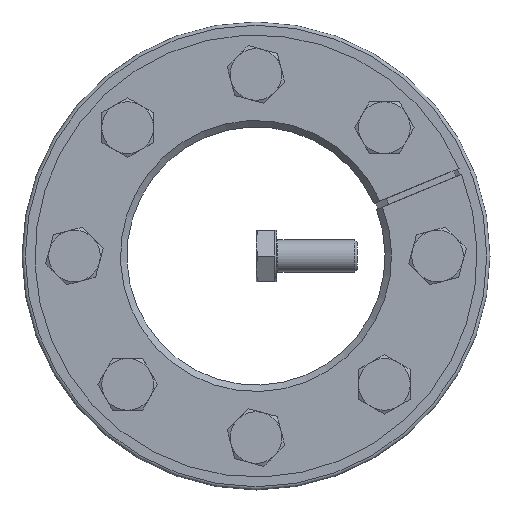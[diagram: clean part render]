
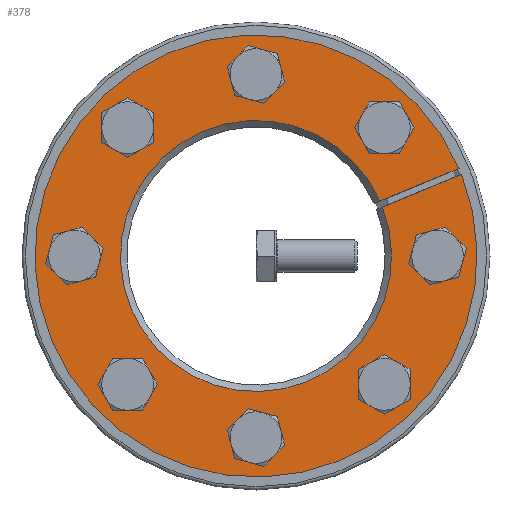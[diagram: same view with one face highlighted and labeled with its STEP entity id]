
A CAD part, front view. The second image highlights one B-rep face of the part: STEP entity #378.
In plain terms, the highlighted planar face has unit normal (0, -1, 0).
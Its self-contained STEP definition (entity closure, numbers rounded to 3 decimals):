
#378 = ADVANCED_FACE( '', ( #622, #623, #624, #625, #626, #627, #628, #629, #630 ), #631, .F. );
#622 = FACE_BOUND( '', #768, .T. );
#623 = FACE_BOUND( '', #769, .T. );
#624 = FACE_BOUND( '', #770, .T. );
#625 = FACE_BOUND( '', #771, .T. );
#626 = FACE_OUTER_BOUND( '', #772, .T. );
#627 = FACE_BOUND( '', #773, .T. );
#628 = FACE_BOUND( '', #774, .T. );
#629 = FACE_BOUND( '', #775, .T. );
#630 = FACE_BOUND( '', #776, .T. );
#631 = PLANE( '', #777 );
#768 = EDGE_LOOP( '', ( #1021 ) );
#769 = EDGE_LOOP( '', ( #1022 ) );
#770 = EDGE_LOOP( '', ( #1023 ) );
#771 = EDGE_LOOP( '', ( #1024 ) );
#772 = EDGE_LOOP( '', ( #1025, #1026, #1027, #1028 ) );
#773 = EDGE_LOOP( '', ( #1029 ) );
#774 = EDGE_LOOP( '', ( #1030 ) );
#775 = EDGE_LOOP( '', ( #1031 ) );
#776 = EDGE_LOOP( '', ( #1032 ) );
#777 = AXIS2_PLACEMENT_3D( '', #1033, #1034, #1035 );
#1021 = ORIENTED_EDGE( '', *, *, #1300, .T. );
#1022 = ORIENTED_EDGE( '', *, *, #1301, .T. );
#1023 = ORIENTED_EDGE( '', *, *, #1302, .T. );
#1024 = ORIENTED_EDGE( '', *, *, #1299, .T. );
#1025 = ORIENTED_EDGE( '', *, *, #1282, .T. );
#1026 = ORIENTED_EDGE( '', *, *, #1285, .T. );
#1027 = ORIENTED_EDGE( '', *, *, #1293, .T. );
#1028 = ORIENTED_EDGE( '', *, *, #1277, .F. );
#1029 = ORIENTED_EDGE( '', *, *, #1303, .T. );
#1030 = ORIENTED_EDGE( '', *, *, #1304, .T. );
#1031 = ORIENTED_EDGE( '', *, *, #1305, .T. );
#1032 = ORIENTED_EDGE( '', *, *, #1306, .T. );
#1033 = CARTESIAN_POINT( '', ( 0., 0., 72.5 ) );
#1034 = DIRECTION( '', ( 0., 1., 0. ) );
#1035 = DIRECTION( '', ( 0., 0., 1. ) );
#1277 = EDGE_CURVE( '', #1418, #1420, #1421, .T. );
#1282 = EDGE_CURVE( '', #1418, #1426, #1429, .T. );
#1285 = EDGE_CURVE( '', #1426, #1432, #1434, .T. );
#1293 = EDGE_CURVE( '', #1432, #1420, #1446, .T. );
#1299 = EDGE_CURVE( '', #1453, #1453, #1454, .T. );
#1300 = EDGE_CURVE( '', #1455, #1455, #1456, .T. );
#1301 = EDGE_CURVE( '', #1457, #1457, #1458, .T. );
#1302 = EDGE_CURVE( '', #1459, #1459, #1460, .T. );
#1303 = EDGE_CURVE( '', #1461, #1461, #1462, .T. );
#1304 = EDGE_CURVE( '', #1463, #1463, #1464, .T. );
#1305 = EDGE_CURVE( '', #1465, #1465, #1466, .T. );
#1306 = EDGE_CURVE( '', #1467, #1467, #1468, .T. );
#1418 = VERTEX_POINT( '', #1523 );
#1420 = VERTEX_POINT( '', #1528 );
#1421 = LINE( '', #1529, #1530 );
#1426 = VERTEX_POINT( '', #1540 );
#1429 = CIRCLE( '', #1546, 68.5 );
#1432 = VERTEX_POINT( '', #1549 );
#1434 = LINE( '', #1554, #1555 );
#1446 = CIRCLE( '', #1575, 42. );
#1453 = VERTEX_POINT( '', #1584 );
#1454 = CIRCLE( '', #1585, 5. );
#1455 = VERTEX_POINT( '', #1586 );
#1456 = CIRCLE( '', #1587, 5. );
#1457 = VERTEX_POINT( '', #1588 );
#1458 = CIRCLE( '', #1589, 5. );
#1459 = VERTEX_POINT( '', #1590 );
#1460 = CIRCLE( '', #1591, 5. );
#1461 = VERTEX_POINT( '', #1592 );
#1462 = CIRCLE( '', #1593, 5. );
#1463 = VERTEX_POINT( '', #1594 );
#1464 = CIRCLE( '', #1595, 5. );
#1465 = VERTEX_POINT( '', #1596 );
#1466 = CIRCLE( '', #1597, 5. );
#1467 = VERTEX_POINT( '', #1598 );
#1468 = CIRCLE( '', #1599, 5. );
#1523 = CARTESIAN_POINT( '', ( 62.896, 0., 27.135 ) );
#1528 = CARTESIAN_POINT( '', ( 38.409, 0., 16.992 ) );
#1529 = CARTESIAN_POINT( '', ( 62.903, 0., 27.138 ) );
#1530 = VECTOR( '', #1642, 1000. );
#1540 = CARTESIAN_POINT( '', ( 63.662, 0., 25.287 ) );
#1546 = AXIS2_PLACEMENT_3D( '', #1645, #1646, #1647 );
#1549 = CARTESIAN_POINT( '', ( 39.175, 0., 15.144 ) );
#1554 = CARTESIAN_POINT( '', ( 63.668, 0., 25.29 ) );
#1555 = VECTOR( '', #1651, 1000. );
#1575 = AXIS2_PLACEMENT_3D( '', #1660, #1661, #1662 );
#1584 = CARTESIAN_POINT( '', ( 56.25, 0., -5. ) );
#1585 = AXIS2_PLACEMENT_3D( '', #1674, #1675, #1676 );
#1586 = CARTESIAN_POINT( '', ( -5., 0., -56.25 ) );
#1587 = AXIS2_PLACEMENT_3D( '', #1677, #1678, #1679 );
#1588 = CARTESIAN_POINT( '', ( -56.25, 0., 5. ) );
#1589 = AXIS2_PLACEMENT_3D( '', #1680, #1681, #1682 );
#1590 = CARTESIAN_POINT( '', ( 5., 0., 56.25 ) );
#1591 = AXIS2_PLACEMENT_3D( '', #1683, #1684, #1685 );
#1592 = CARTESIAN_POINT( '', ( 43.31, 0., 36.239 ) );
#1593 = AXIS2_PLACEMENT_3D( '', #1686, #1687, #1688 );
#1594 = CARTESIAN_POINT( '', ( -36.239, 0., 43.31 ) );
#1595 = AXIS2_PLACEMENT_3D( '', #1689, #1690, #1691 );
#1596 = CARTESIAN_POINT( '', ( -43.31, 0., -36.239 ) );
#1597 = AXIS2_PLACEMENT_3D( '', #1692, #1693, #1694 );
#1598 = CARTESIAN_POINT( '', ( 36.239, 0., -43.31 ) );
#1599 = AXIS2_PLACEMENT_3D( '', #1695, #1696, #1697 );
#1642 = DIRECTION( '', ( -0.924, 0., -0.383 ) );
#1645 = CARTESIAN_POINT( '', ( 0., 0., 0. ) );
#1646 = DIRECTION( '', ( 0., -1., 0. ) );
#1647 = DIRECTION( '', ( 0., 0., -1. ) );
#1651 = DIRECTION( '', ( -0.924, 0., -0.383 ) );
#1660 = CARTESIAN_POINT( '', ( 0., 0., 0. ) );
#1661 = DIRECTION( '', ( 0., 1., 0. ) );
#1662 = DIRECTION( '', ( 0., 0., 1. ) );
#1674 = CARTESIAN_POINT( '', ( 56.25, 0., 0. ) );
#1675 = DIRECTION( '', ( 0., 1., 0. ) );
#1676 = DIRECTION( '', ( 0., 0., -1. ) );
#1677 = CARTESIAN_POINT( '', ( 0., 0., -56.25 ) );
#1678 = DIRECTION( '', ( 0., 1., 0. ) );
#1679 = DIRECTION( '', ( -1., 0., 0. ) );
#1680 = CARTESIAN_POINT( '', ( -56.25, 0., 0. ) );
#1681 = DIRECTION( '', ( 0., 1., 0. ) );
#1682 = DIRECTION( '', ( 0., 0., 1. ) );
#1683 = CARTESIAN_POINT( '', ( 0., 0., 56.25 ) );
#1684 = DIRECTION( '', ( 0., 1., 0. ) );
#1685 = DIRECTION( '', ( 1., 0., 0. ) );
#1686 = CARTESIAN_POINT( '', ( 39.775, 0., 39.775 ) );
#1687 = DIRECTION( '', ( 0., 1., 0. ) );
#1688 = DIRECTION( '', ( 0.707, 0., -0.707 ) );
#1689 = CARTESIAN_POINT( '', ( -39.775, 0., 39.775 ) );
#1690 = DIRECTION( '', ( 0., 1., 0. ) );
#1691 = DIRECTION( '', ( 0.707, 0., 0.707 ) );
#1692 = CARTESIAN_POINT( '', ( -39.775, 0., -39.775 ) );
#1693 = DIRECTION( '', ( 0., 1., 0. ) );
#1694 = DIRECTION( '', ( -0.707, 0., 0.707 ) );
#1695 = CARTESIAN_POINT( '', ( 39.775, 0., -39.775 ) );
#1696 = DIRECTION( '', ( 0., 1., 0. ) );
#1697 = DIRECTION( '', ( -0.707, 0., -0.707 ) );
